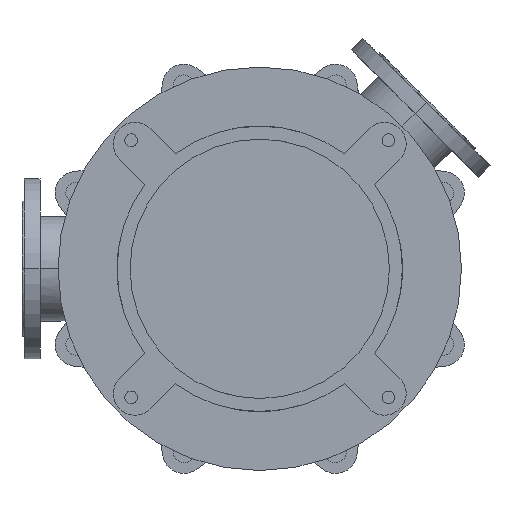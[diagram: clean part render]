
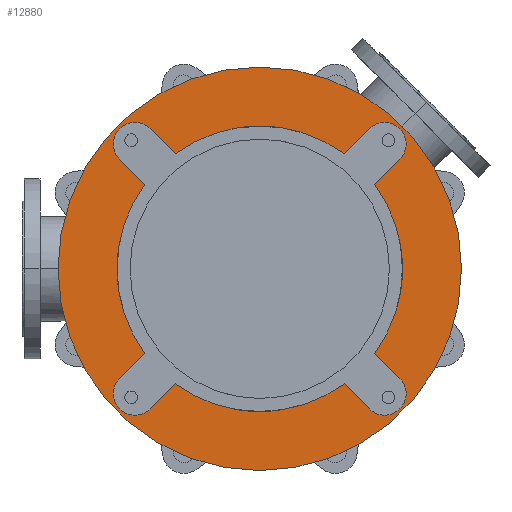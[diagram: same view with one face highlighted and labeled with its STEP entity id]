
A CAD part, front view. The second image highlights one B-rep face of the part: STEP entity #12880.
In plain terms, the highlighted planar face has unit normal (0, -1, 0).
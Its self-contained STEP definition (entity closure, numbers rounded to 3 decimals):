
#2529=CARTESIAN_POINT('',(0.,-25.,0.));
#2530=DIRECTION('',(0.,1.,0.));
#2531=DIRECTION('',(0.592,0.,-0.806));
#2532=AXIS2_PLACEMENT_3D('',#2529,#2530,#2531);
#2547=CARTESIAN_POINT('',(0.,-25.,0.));
#2548=DIRECTION('',(0.,1.,0.));
#2549=DIRECTION('',(0.806,0.,0.592));
#2550=AXIS2_PLACEMENT_3D('',#2547,#2548,#2549);
#2574=CARTESIAN_POINT('',(0.,-25.,0.));
#2575=DIRECTION('',(0.,1.,0.));
#2576=DIRECTION('',(-0.806,0.,-0.592));
#2577=AXIS2_PLACEMENT_3D('',#2574,#2575,#2576);
#2583=CARTESIAN_POINT('',(0.,-25.,0.));
#2584=DIRECTION('',(0.,1.,0.));
#2585=DIRECTION('',(-0.592,0.,0.806));
#2586=AXIS2_PLACEMENT_3D('',#2583,#2584,#2585);
#2761=CARTESIAN_POINT('',(0.,-25.,0.));
#2762=DIRECTION('',(0.,-1.,0.));
#2763=DIRECTION('',(-1.,0.,0.));
#2764=AXIS2_PLACEMENT_3D('',#2761,#2762,#2763);
#2766=CARTESIAN_POINT('',(0.,-25.,0.));
#2767=DIRECTION('',(0.,1.,0.));
#2768=DIRECTION('',(-1.,0.,0.));
#2769=AXIS2_PLACEMENT_3D('',#2766,#2767,#2768);
#2771=CARTESIAN_POINT('',(-173.241,-25.,173.241));
#2772=DIRECTION('',(0.,-1.,0.));
#2773=DIRECTION('',(0.707,0.,0.707));
#2774=AXIS2_PLACEMENT_3D('',#2771,#2772,#2773);
#2776=DIRECTION('',(0.707,0.,-0.707));
#2777=VECTOR('',#2776,49.286);
#2778=CARTESIAN_POINT('',(-194.454,-25.,152.028));
#2779=LINE('',#2778,#2777);
#2780=DIRECTION('',(-0.707,0.,-0.707));
#2781=VECTOR('',#2780,49.286);
#2782=CARTESIAN_POINT('',(-159.604,-25.,-117.178));
#2783=LINE('',#2782,#2781);
#2784=CARTESIAN_POINT('',(-173.241,-25.,-173.241));
#2785=DIRECTION('',(0.,-1.,0.));
#2786=DIRECTION('',(-0.707,0.,0.707));
#2787=AXIS2_PLACEMENT_3D('',#2784,#2785,#2786);
#2789=DIRECTION('',(0.707,0.,0.707));
#2790=VECTOR('',#2789,49.286);
#2791=CARTESIAN_POINT('',(-152.028,-25.,-194.454));
#2792=LINE('',#2791,#2790);
#2793=DIRECTION('',(0.707,0.,-0.707));
#2794=VECTOR('',#2793,49.286);
#2795=CARTESIAN_POINT('',(117.178,-25.,-159.604));
#2796=LINE('',#2795,#2794);
#2797=CARTESIAN_POINT('',(173.241,-25.,-173.241));
#2798=DIRECTION('',(0.,-1.,0.));
#2799=DIRECTION('',(-0.707,0.,-0.707));
#2800=AXIS2_PLACEMENT_3D('',#2797,#2798,#2799);
#2802=DIRECTION('',(-0.707,0.,0.707));
#2803=VECTOR('',#2802,49.286);
#2804=CARTESIAN_POINT('',(194.454,-25.,-152.028));
#2805=LINE('',#2804,#2803);
#2806=DIRECTION('',(0.707,0.,0.707));
#2807=VECTOR('',#2806,49.286);
#2808=CARTESIAN_POINT('',(159.604,-25.,117.178));
#2809=LINE('',#2808,#2807);
#2810=CARTESIAN_POINT('',(173.241,-25.,173.241));
#2811=DIRECTION('',(0.,-1.,0.));
#2812=DIRECTION('',(0.707,0.,-0.707));
#2813=AXIS2_PLACEMENT_3D('',#2810,#2811,#2812);
#2815=DIRECTION('',(-0.707,0.,-0.707));
#2816=VECTOR('',#2815,49.286);
#2817=CARTESIAN_POINT('',(152.028,-25.,194.454));
#2818=LINE('',#2817,#2816);
#2819=DIRECTION('',(-0.707,0.,0.707));
#2820=VECTOR('',#2819,49.286);
#2821=CARTESIAN_POINT('',(-117.178,-25.,159.604));
#2822=LINE('',#2821,#2820);
#8393=CARTESIAN_POINT('',(-280.,-25.,0.));
#8394=CARTESIAN_POINT('',(280.,-25.,0.));
#8395=VERTEX_POINT('',#8393);
#8396=VERTEX_POINT('',#8394);
#8417=CARTESIAN_POINT('',(-194.454,-25.,-152.028));
#8418=CARTESIAN_POINT('',(-152.028,-25.,-194.454));
#8419=VERTEX_POINT('',#8417);
#8420=VERTEX_POINT('',#8418);
#8421=CARTESIAN_POINT('',(-117.178,-25.,-159.604));
#8422=VERTEX_POINT('',#8421);
#8423=CARTESIAN_POINT('',(-159.604,-25.,-117.178));
#8424=VERTEX_POINT('',#8423);
#8433=CARTESIAN_POINT('',(152.028,-25.,-194.454));
#8434=CARTESIAN_POINT('',(194.454,-25.,-152.028));
#8435=VERTEX_POINT('',#8433);
#8436=VERTEX_POINT('',#8434);
#8437=CARTESIAN_POINT('',(159.604,-25.,-117.178));
#8438=VERTEX_POINT('',#8437);
#8439=CARTESIAN_POINT('',(117.178,-25.,-159.604));
#8440=VERTEX_POINT('',#8439);
#8449=CARTESIAN_POINT('',(194.454,-25.,152.028));
#8450=CARTESIAN_POINT('',(152.028,-25.,194.454));
#8451=VERTEX_POINT('',#8449);
#8452=VERTEX_POINT('',#8450);
#8453=CARTESIAN_POINT('',(117.178,-25.,159.604));
#8454=VERTEX_POINT('',#8453);
#8455=CARTESIAN_POINT('',(159.604,-25.,117.178));
#8456=VERTEX_POINT('',#8455);
#8465=CARTESIAN_POINT('',(-152.028,-25.,194.454));
#8466=CARTESIAN_POINT('',(-194.454,-25.,152.028));
#8467=VERTEX_POINT('',#8465);
#8468=VERTEX_POINT('',#8466);
#8469=CARTESIAN_POINT('',(-159.604,-25.,117.178));
#8470=VERTEX_POINT('',#8469);
#8471=CARTESIAN_POINT('',(-117.178,-25.,159.604));
#8472=VERTEX_POINT('',#8471);
#12840=CARTESIAN_POINT('',(0.,-25.,0.));
#12841=DIRECTION('',(0.,-1.,0.));
#12842=DIRECTION('',(-1.,0.,0.));
#12843=AXIS2_PLACEMENT_3D('',#12840,#12841,#12842);
#12844=PLANE('',#12843);
#12846=ORIENTED_EDGE('',*,*,#12845,.F.);
#12848=ORIENTED_EDGE('',*,*,#12847,.T.);
#12849=EDGE_LOOP('',(#12846,#12848));
#12850=FACE_OUTER_BOUND('',#12849,.F.);
#12852=ORIENTED_EDGE('',*,*,#12851,.T.);
#12854=ORIENTED_EDGE('',*,*,#12853,.T.);
#12855=ORIENTED_EDGE('',*,*,#12793,.F.);
#12857=ORIENTED_EDGE('',*,*,#12856,.T.);
#12859=ORIENTED_EDGE('',*,*,#12858,.T.);
#12861=ORIENTED_EDGE('',*,*,#12860,.T.);
#12862=ORIENTED_EDGE('',*,*,#12746,.F.);
#12863=ORIENTED_EDGE('',*,*,#12830,.T.);
#12865=ORIENTED_EDGE('',*,*,#12864,.T.);
#12867=ORIENTED_EDGE('',*,*,#12866,.T.);
#12868=ORIENTED_EDGE('',*,*,#12767,.F.);
#12870=ORIENTED_EDGE('',*,*,#12869,.T.);
#12872=ORIENTED_EDGE('',*,*,#12871,.T.);
#12874=ORIENTED_EDGE('',*,*,#12873,.T.);
#12875=ORIENTED_EDGE('',*,*,#12811,.F.);
#12877=ORIENTED_EDGE('',*,*,#12876,.T.);
#12878=EDGE_LOOP('',(#12852,#12854,#12855,#12857,#12859,#12861,#12862,#12863,
#12865,#12867,#12868,#12870,#12872,#12874,#12875,#12877));
#12879=FACE_BOUND('',#12878,.F.);
#12880=ADVANCED_FACE('',(#12850,#12879),#12844,.T.);
#2533=CIRCLE('',#2532,198.);
#2551=CIRCLE('',#2550,198.);
#2578=CIRCLE('',#2577,198.);
#2587=CIRCLE('',#2586,198.);
#2765=CIRCLE('',#2764,280.);
#2770=CIRCLE('',#2769,280.);
#2775=CIRCLE('',#2774,30.);
#2788=CIRCLE('',#2787,30.);
#2801=CIRCLE('',#2800,30.);
#2814=CIRCLE('',#2813,30.);
#12746=EDGE_CURVE('',#8440,#8422,#2533,.T.);
#12767=EDGE_CURVE('',#8456,#8438,#2551,.T.);
#12793=EDGE_CURVE('',#8424,#8470,#2578,.T.);
#12811=EDGE_CURVE('',#8472,#8454,#2587,.T.);
#12830=EDGE_CURVE('',#8440,#8435,#2796,.T.);
#12845=EDGE_CURVE('',#8395,#8396,#2765,.T.);
#12847=EDGE_CURVE('',#8395,#8396,#2770,.T.);
#12851=EDGE_CURVE('',#8467,#8468,#2775,.T.);
#12853=EDGE_CURVE('',#8468,#8470,#2779,.T.);
#12856=EDGE_CURVE('',#8424,#8419,#2783,.T.);
#12858=EDGE_CURVE('',#8419,#8420,#2788,.T.);
#12860=EDGE_CURVE('',#8420,#8422,#2792,.T.);
#12864=EDGE_CURVE('',#8435,#8436,#2801,.T.);
#12866=EDGE_CURVE('',#8436,#8438,#2805,.T.);
#12869=EDGE_CURVE('',#8456,#8451,#2809,.T.);
#12871=EDGE_CURVE('',#8451,#8452,#2814,.T.);
#12873=EDGE_CURVE('',#8452,#8454,#2818,.T.);
#12876=EDGE_CURVE('',#8472,#8467,#2822,.T.);
